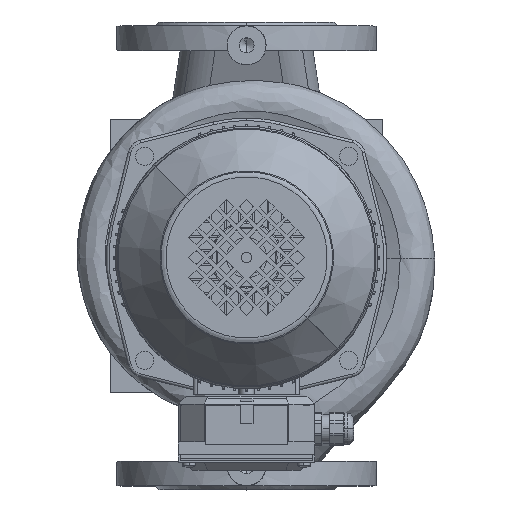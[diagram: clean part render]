
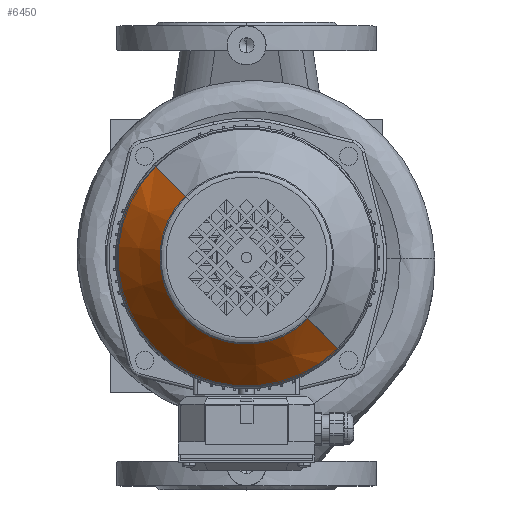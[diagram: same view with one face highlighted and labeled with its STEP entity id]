
A CAD part, top view. The second image highlights one B-rep face of the part: STEP entity #6450.
In plain terms, the highlighted conical face has half-angle 38.66 degrees and reference radius 65 mm.
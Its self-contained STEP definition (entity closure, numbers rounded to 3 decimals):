
#6450=ADVANCED_FACE('NONE',(#15599),#15600,.T.);
#15599=FACE_OUTER_BOUND('',#30909,.T.);
#15600=CONICAL_SURFACE('',#30910,65.0,0.675);
#30909=EDGE_LOOP('',(#47638,#47639,#47640,#47641));
#30910=AXIS2_PLACEMENT_3D('',#47642,#47643,#47644);
#47638=ORIENTED_EDGE('',*,*,#55428,.T.);
#47639=ORIENTED_EDGE('',*,*,#55479,.T.);
#47640=ORIENTED_EDGE('',*,*,#55430,.T.);
#47641=ORIENTED_EDGE('',*,*,#55481,.T.);
#47642=CARTESIAN_POINT('',(0.0,110.0,0.0));
#47643=DIRECTION('',(-0.0,-1.0,-0.0));
#47644=DIRECTION('',(0.0,0.0,-1.0));
#55428=EDGE_CURVE('',#68095,#68096,#68097,.T.);
#55430=EDGE_CURVE('',#68100,#68098,#68101,.T.);
#55479=EDGE_CURVE('NONE',#68096,#68100,#68182,.T.);
#55481=EDGE_CURVE('NONE',#68098,#68095,#68184,.T.);
#68095=VERTEX_POINT('',#90354);
#68096=VERTEX_POINT('NONE',#90355);
#68097=LINE('',#90356,#90357);
#68098=VERTEX_POINT('NONE',#90358);
#68100=VERTEX_POINT('',#90360);
#68101=LINE('',#90361,#90362);
#68182=CIRCLE('',#90711,99.685);
#68184=CIRCLE('',#90713,66.801);
#90354=CARTESIAN_POINT('',(0.,107.748,-66.801));
#90355=CARTESIAN_POINT('',(0.0,66.643,-99.685));
#90356=CARTESIAN_POINT('',(0.,110.0,-65.0));
#90357=VECTOR('',#100188,1.0);
#90358=CARTESIAN_POINT('',(0.,107.748,66.801));
#90360=CARTESIAN_POINT('',(0.,66.643,99.685));
#90361=CARTESIAN_POINT('',(0.,110.0,65.0));
#90362=VECTOR('',#100192,1.0);
#90711=AXIS2_PLACEMENT_3D('',#100269,#100270,#100271);
#90713=AXIS2_PLACEMENT_3D('',#100275,#100276,#100277);
#100188=DIRECTION('',(0.,-0.781,-0.625));
#100192=DIRECTION('',(0.,0.781,-0.625));
#100269=CARTESIAN_POINT('',(0.0,66.643,0.0));
#100270=DIRECTION('',(-0.0,1.0,0.0));
#100271=DIRECTION('',(0.0,0.0,1.0));
#100275=CARTESIAN_POINT('',(0.0,107.748,0.0));
#100276=DIRECTION('',(0.0,-1.0,0.0));
#100277=DIRECTION('',(0.0,0.0,1.0));
